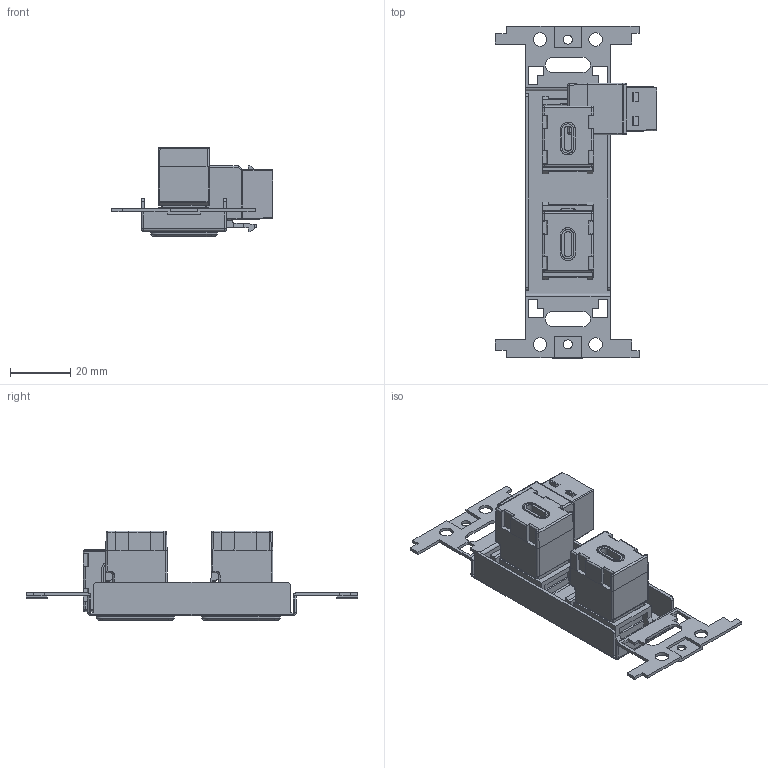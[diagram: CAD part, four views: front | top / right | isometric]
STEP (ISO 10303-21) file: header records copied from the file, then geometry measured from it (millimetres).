
FILE_DESCRIPTION(('FreeCAD Model'),'2;1');
FILE_NAME('Open CASCADE Shape Model','2026-09-14T10:28:24',(''),(''), 'Open CASCADE STEP processor 7.8','FreeCAD','Unknown');
FILE_SCHEMA(('AUTOMOTIVE_DESIGN { 1 0 10303 214 1 1 1 1 }'));
Length unit declared in the file: millimetre
Products named in the file (13): CMW_2SIUSB3C_XX; SY-USB-31-C-WH_SD006; SY-USB-31-C-WH_SD003; SY-USB-31-C-WH_SD; SY-USB-31-C-WH_SD001; SY-USB-31-C-WH_SD002; P_200796_XX; P-200796; 3013BUS12xx-1; 3013BUS12xx-2; SY-USB-31-C-WH_SD007; SY-USB-31-C-WH_SD004; SY-USB-31-C-WH_SD005
Assembly tree (18 placements, depth 3):
  CMW_2SIUSB3C_XX
    SY-USB-31-C-WH_SD006
    SY-USB-31-C-WH_SD003
      SY-USB-31-C-WH_SD
      SY-USB-31-C-WH_SD001
      SY-USB-31-C-WH_SD002
    P_200796_XX
      P-200796
      3013BUS12xx-1
      3013BUS12xx-2
    SY-USB-31-C-WH_SD007
      SY-USB-31-C-WH_SD004
      SY-USB-31-C-WH_SD005
      SY-USB-31-C-WH_SD006
    SY-USB-31-C-WH_SD
    SY-USB-31-C-WH_SD001
    SY-USB-31-C-WH_SD002
    SY-USB-31-C-WH_SD004
    SY-USB-31-C-WH_SD005
Bounding box: 53.39 x 110 x 29.8 mm (x, y, z)
Volume: 39891.1 mm3; surface area: 25785.9 mm2
Topology: 15 solids, 15 shells, 882 faces, 2272 edges, 1428 vertices
Faces by surface type: bspline 758, plane 92, cylinder 28, torus 4
Full cylindrical faces by diameter (mm): 3 x2, 4.5 x4
Entity records: 25800 total; most frequent: CARTESIAN_POINT 15066, ORIENTED_EDGE 3020, EDGE_CURVE 1508, B_SPLINE_CURVE_WITH_KNOTS 1149, VERTEX_POINT 960, DIRECTION 705, FACE_BOUND 616, EDGE_LOOP 616
